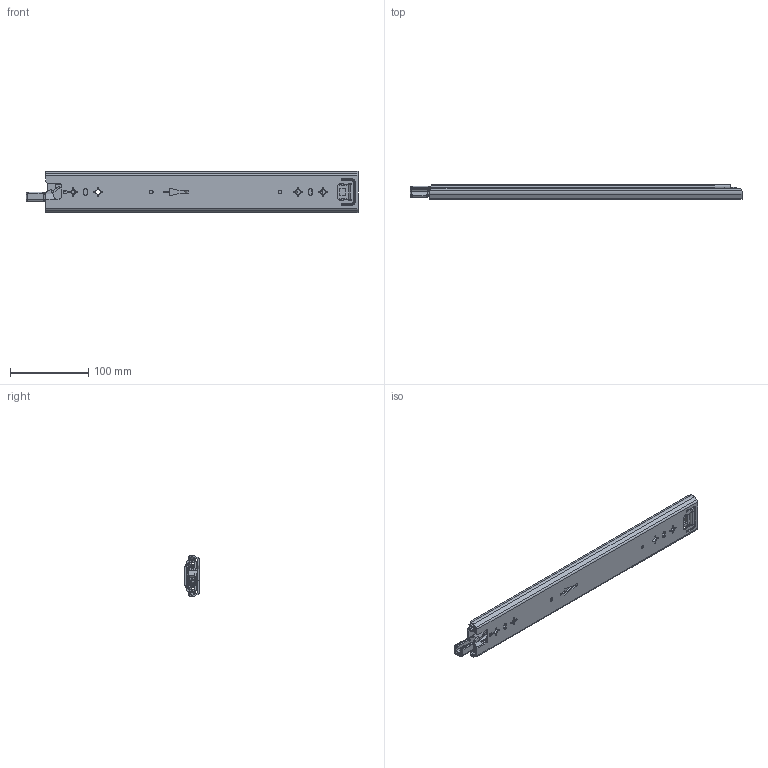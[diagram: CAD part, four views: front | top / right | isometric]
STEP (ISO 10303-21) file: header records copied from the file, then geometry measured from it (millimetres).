
FILE_DESCRIPTION((''),'2;1');
FILE_NAME('1053-3S-16ZUZHUANGTU_ASM','2023-04-06T',('jishu015'),(''),'PRO/ENGINEER BY PARAMETRIC TECHNOLOGY CORPORATION, 2010280','PRO/ENGINEER BY PARAMETRIC TECHNOLOGY CORPORATION, 2010280','');
FILE_SCHEMA(('CONFIG_CONTROL_DESIGN'));
Length unit declared in the file: millimetre
Products named in the file (20): 1053-02-18WAIKE12___; 1053WEIJIAO12___; 1053-3S-24WAIKE12____ASM; 1053ZHUTIAO-17521___; 53-5-6GANZHU21___; 1053ZHUTIAO-175MM21____ASM; 1053-02-18ZHONGGUI21___; ZHONGGUIPEIJIAN21___; ZHONGGUISUOKOU21___; 1053-02-18ZHONGGUI21____ASM; 1053XIAOZHUJIA-14GE21___; 1053XIAOZHUJIA-14GE21____ASM; 1053-02-18NEIGUI21___; DAOPIAN21___; PIAN21___; 1053-3SBANJI12321___; JIAO-121___; 50XINSUOKOU2___; 1053-02-18NEIGUI21____ASM; 1053-3S-16ZUZHUANGTU_ASM
Assembly tree (49 placements, depth 3):
  1053-3S-16ZUZHUANGTU_ASM
    1053-3S-24WAIKE12____ASM
      1053-02-18WAIKE12___
      1053WEIJIAO12___
    1053ZHUTIAO-175MM21____ASM  x2
      1053ZHUTIAO-17521___
      53-5-6GANZHU21___
    1053-02-18ZHONGGUI21____ASM
      1053-02-18ZHONGGUI21___
      ZHONGGUIPEIJIAN21___
      ZHONGGUISUOKOU21___
    1053XIAOZHUJIA-14GE21____ASM
      1053XIAOZHUJIA-14GE21___
      53-5-6GANZHU21___  x24
    1053-02-18NEIGUI21____ASM
      1053-02-18NEIGUI21___
      DAOPIAN21___
      PIAN21___
      1053-3SBANJI12321___
      JIAO-121___
      50XINSUOKOU2___
Bounding box: 425.42 x 18.7 x 53 mm (x, y, z)
Volume: 151217.5 mm3; surface area: 173904 mm2
Topology: 51 solids, 51 shells, 1535 faces, 4374 edges, 2755 vertices
Faces by surface type: plane 659, cylinder 636, sphere 80, bspline 75, cone 46, extrusion 23, torus 16
Entity records: 51192 total; most frequent: CARTESIAN_POINT 13246, ORIENTED_EDGE 8038, DIRECTION 7751, EDGE_CURVE 4019, AXIS2_PLACEMENT_3D 2668, VERTEX_POINT 2597, VECTOR 2415, LINE 2392
